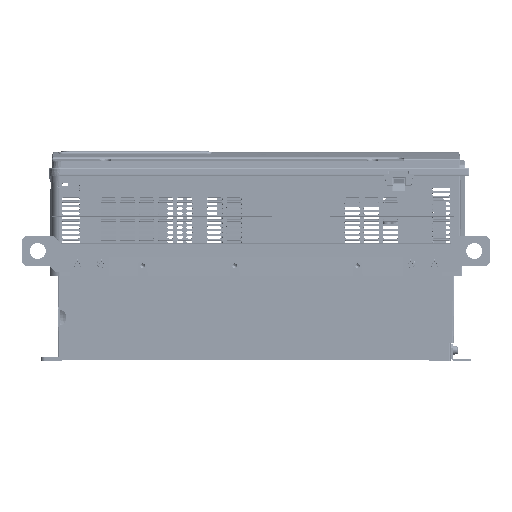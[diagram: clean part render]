
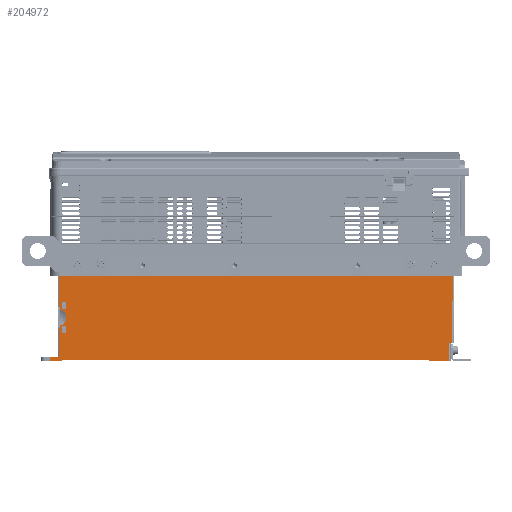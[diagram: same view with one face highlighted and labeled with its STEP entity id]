
A CAD part, left-side view. The second image highlights one B-rep face of the part: STEP entity #204972.
In plain terms, the highlighted planar face has unit normal (-1, 0, 0).
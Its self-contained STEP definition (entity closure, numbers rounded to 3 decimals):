
#67195=DIRECTION('',(0.,1.,-0.017));
#67196=VECTOR('',#67195,0.473);
#67197=CARTESIAN_POINT('',(-4.626,9.764,
0.112));
#67198=LINE('',#67197,#67196);
#67440=DIRECTION('',(0.,1.,0.));
#67441=VECTOR('',#67440,0.63);
#67442=CARTESIAN_POINT('',(-4.626,9.606,
-0.087));
#67443=LINE('',#67442,#67441);
#67488=DIRECTION('',(0.,1.,0.));
#67489=VECTOR('',#67488,18.209);
#67490=CARTESIAN_POINT('',(-4.626,-8.602,
-0.047));
#67491=LINE('',#67490,#67489);
#67492=DIRECTION('',(0.,0.,-1.));
#67493=VECTOR('',#67492,0.039);
#67494=CARTESIAN_POINT('',(-4.626,9.606,
-0.047));
#67495=LINE('',#67494,#67493);
#67496=DIRECTION('',(0.,0.,-1.));
#67497=VECTOR('',#67496,0.191);
#67498=CARTESIAN_POINT('',(-4.626,10.236,
0.104));
#67499=LINE('',#67498,#67497);
#67500=DIRECTION('',(0.,0.,1.));
#67501=VECTOR('',#67500,1.427);
#67502=CARTESIAN_POINT('',(-4.626,9.764,
0.112));
#67503=LINE('',#67502,#67501);
#67504=DIRECTION('',(0.,1.,0.));
#67505=VECTOR('',#67504,0.039);
#67506=CARTESIAN_POINT('',(-4.626,9.724,
1.539));
#67507=LINE('',#67506,#67505);
#67508=DIRECTION('',(0.,0.,-1.));
#67509=VECTOR('',#67508,0.124);
#67510=CARTESIAN_POINT('',(-4.626,9.724,
1.664));
#67511=LINE('',#67510,#67509);
#67512=DIRECTION('',(0.,0.,-1.));
#67513=VECTOR('',#67512,0.124);
#67514=CARTESIAN_POINT('',(-4.626,9.724,
2.579));
#67515=LINE('',#67514,#67513);
#67516=DIRECTION('',(0.,-1.,0.));
#67517=VECTOR('',#67516,0.039);
#67518=CARTESIAN_POINT('',(-4.626,9.764,
2.579));
#67519=LINE('',#67518,#67517);
#67520=DIRECTION('',(0.,0.,1.));
#67521=VECTOR('',#67520,1.528);
#67522=CARTESIAN_POINT('',(-4.626,9.764,
2.579));
#67523=LINE('',#67522,#67521);
#67524=DIRECTION('',(0.,1.,0.));
#67525=VECTOR('',#67524,19.528);
#67526=CARTESIAN_POINT('',(-4.626,-9.764,
4.106));
#67527=LINE('',#67526,#67525);
#67528=DIRECTION('',(0.,-0.009,1.));
#67529=VECTOR('',#67528,3.297);
#67530=CARTESIAN_POINT('',(-4.626,-9.735,
0.809));
#67531=LINE('',#67530,#67529);
#67532=DIRECTION('',(0.,0.,-1.));
#67533=VECTOR('',#67532,0.335);
#67534=CARTESIAN_POINT('',(-4.626,9.449,
2.819));
#67535=LINE('',#67534,#67533);
#67536=DIRECTION('',(0.,-1.,0.));
#67537=VECTOR('',#67536,0.157);
#67538=CARTESIAN_POINT('',(-4.626,9.606,
2.819));
#67539=LINE('',#67538,#67537);
#67540=DIRECTION('',(0.,0.,1.));
#67541=VECTOR('',#67540,0.335);
#67542=CARTESIAN_POINT('',(-4.626,9.606,
2.484));
#67543=LINE('',#67542,#67541);
#67544=DIRECTION('',(0.,1.,0.));
#67545=VECTOR('',#67544,0.157);
#67546=CARTESIAN_POINT('',(-4.626,9.449,
2.484));
#67547=LINE('',#67546,#67545);
#67548=DIRECTION('',(0.,1.,0.));
#67549=VECTOR('',#67548,0.157);
#67550=CARTESIAN_POINT('',(-4.626,9.449,
1.299));
#67551=LINE('',#67550,#67549);
#67552=DIRECTION('',(0.,0.,-1.));
#67553=VECTOR('',#67552,0.335);
#67554=CARTESIAN_POINT('',(-4.626,9.449,
1.634));
#67555=LINE('',#67554,#67553);
#67556=DIRECTION('',(0.,-1.,0.));
#67557=VECTOR('',#67556,0.157);
#67558=CARTESIAN_POINT('',(-4.626,9.606,
1.634));
#67559=LINE('',#67558,#67557);
#67560=DIRECTION('',(0.,0.,1.));
#67561=VECTOR('',#67560,0.335);
#67562=CARTESIAN_POINT('',(-4.626,9.606,
1.299));
#67563=LINE('',#67562,#67561);
#67564=DIRECTION('',(0.,-0.009,1.));
#67565=VECTOR('',#67564,0.896);
#67566=CARTESIAN_POINT('',(-4.626,-9.579,
-0.087));
#67567=LINE('',#67566,#67565);
#67568=CARTESIAN_POINT('',(-4.626,-9.587,
0.809));
#68188=DIRECTION('',(0.,0.,-1.));
#68189=VECTOR('',#68188,0.039);
#68190=CARTESIAN_POINT('',(-4.626,-8.602,
-0.047));
#68191=LINE('',#68190,#68189);
#68204=DIRECTION('',(0.,1.,0.));
#68205=VECTOR('',#68204,0.976);
#68206=CARTESIAN_POINT('',(-4.626,-9.579,
-0.087));
#68207=LINE('',#68206,#68205);
#68216=CARTESIAN_POINT('',(-4.626,-9.579,
-0.087));
#68304=DIRECTION('',(0.,-1.,0.));
#68305=VECTOR('',#68304,0.148);
#68306=CARTESIAN_POINT('',(-4.626,-9.587,
0.809));
#68307=LINE('',#68306,#68305);
#68316=CARTESIAN_POINT('',(-4.626,-9.735,
0.809));
#68584=CARTESIAN_POINT('',(-4.626,9.764,
0.112));
#68692=CARTESIAN_POINT('',(-4.626,9.815,
2.059));
#68693=DIRECTION('',(1.,0.,0.));
#68694=DIRECTION('',(0.,-0.223,0.975));
#68695=AXIS2_PLACEMENT_3D('',#68692,#68693,#68694);
#112802=CARTESIAN_POINT('',(-4.626,9.606,
-0.087));
#112803=VERTEX_POINT('',#112802);
#112814=CARTESIAN_POINT('',(-4.626,9.606,
-0.047));
#112815=VERTEX_POINT('',#112814);
#112944=CARTESIAN_POINT('',(-4.626,9.764,
2.579));
#112945=CARTESIAN_POINT('',(-4.626,9.764,
4.106));
#112946=VERTEX_POINT('',#112944);
#112947=VERTEX_POINT('',#112945);
#113008=CARTESIAN_POINT('',(-4.626,9.449,
2.819));
#113009=CARTESIAN_POINT('',(-4.626,9.449,
2.484));
#113010=VERTEX_POINT('',#113008);
#113011=VERTEX_POINT('',#113009);
#113012=CARTESIAN_POINT('',(-4.626,9.606,
2.484));
#113013=VERTEX_POINT('',#113012);
#113014=CARTESIAN_POINT('',(-4.626,9.606,
2.819));
#113015=VERTEX_POINT('',#113014);
#113016=CARTESIAN_POINT('',(-4.626,9.449,
1.299));
#113017=CARTESIAN_POINT('',(-4.626,9.606,
1.299));
#113018=VERTEX_POINT('',#113016);
#113019=VERTEX_POINT('',#113017);
#113020=CARTESIAN_POINT('',(-4.626,9.606,
1.634));
#113021=VERTEX_POINT('',#113020);
#113022=CARTESIAN_POINT('',(-4.626,9.449,
1.634));
#113023=VERTEX_POINT('',#113022);
#113044=CARTESIAN_POINT('',(-4.626,9.724,
2.579));
#113045=VERTEX_POINT('',#113044);
#113046=CARTESIAN_POINT('',(-4.626,9.724,
1.539));
#113047=VERTEX_POINT('',#113046);
#113048=CARTESIAN_POINT('',(-4.626,9.724,
2.454));
#113049=VERTEX_POINT('',#113048);
#113050=CARTESIAN_POINT('',(-4.626,9.724,
1.664));
#113051=VERTEX_POINT('',#113050);
#113056=CARTESIAN_POINT('',(-4.626,9.764,
1.539));
#113057=VERTEX_POINT('',#113056);
#114153=CARTESIAN_POINT('',(-4.626,-8.602,
-0.047));
#114154=CARTESIAN_POINT('',(-4.626,-8.602,
-0.087));
#114155=VERTEX_POINT('',#114153);
#114156=VERTEX_POINT('',#114154);
#114178=VERTEX_POINT('',#68584);
#114616=VERTEX_POINT('',#68316);
#114617=CARTESIAN_POINT('',(-4.626,-9.764,
4.106));
#114618=VERTEX_POINT('',#114617);
#114626=VERTEX_POINT('',#67568);
#114631=VERTEX_POINT('',#68216);
#114802=CARTESIAN_POINT('',(-4.626,10.236,
-0.087));
#114803=VERTEX_POINT('',#114802);
#114820=CARTESIAN_POINT('',(-4.626,10.236,
0.104));
#114821=VERTEX_POINT('',#114820);
#204914=CARTESIAN_POINT('',(-4.626,-9.843,
4.343));
#204915=DIRECTION('',(-1.,0.,0.));
#204916=DIRECTION('',(0.,1.,0.));
#204917=AXIS2_PLACEMENT_3D('',#204914,#204915,#204916);
#204918=PLANE('',#204917);
#204920=ORIENTED_EDGE('',*,*,#204919,.F.);
#204922=ORIENTED_EDGE('',*,*,#204921,.T.);
#204924=ORIENTED_EDGE('',*,*,#204923,.F.);
#204925=ORIENTED_EDGE('',*,*,#204521,.T.);
#204927=ORIENTED_EDGE('',*,*,#204926,.T.);
#204928=ORIENTED_EDGE('',*,*,#204874,.T.);
#204929=ORIENTED_EDGE('',*,*,#204908,.F.);
#204930=ORIENTED_EDGE('',*,*,#204812,.F.);
#204932=ORIENTED_EDGE('',*,*,#204931,.T.);
#204934=ORIENTED_EDGE('',*,*,#204933,.F.);
#204936=ORIENTED_EDGE('',*,*,#204935,.F.);
#204938=ORIENTED_EDGE('',*,*,#204937,.F.);
#204940=ORIENTED_EDGE('',*,*,#204939,.F.);
#204942=ORIENTED_EDGE('',*,*,#204941,.F.);
#204944=ORIENTED_EDGE('',*,*,#204943,.T.);
#204945=ORIENTED_EDGE('',*,*,#158115,.F.);
#204947=ORIENTED_EDGE('',*,*,#204946,.F.);
#204949=ORIENTED_EDGE('',*,*,#204948,.F.);
#204950=EDGE_LOOP('',(#204920,#204922,#204924,#204925,#204927,#204928,#204929,
#204930,#204932,#204934,#204936,#204938,#204940,#204942,#204944,#204945,#204947,
#204949));
#204951=FACE_OUTER_BOUND('',#204950,.F.);
#204953=ORIENTED_EDGE('',*,*,#204952,.F.);
#204955=ORIENTED_EDGE('',*,*,#204954,.F.);
#204957=ORIENTED_EDGE('',*,*,#204956,.F.);
#204959=ORIENTED_EDGE('',*,*,#204958,.F.);
#204960=EDGE_LOOP('',(#204953,#204955,#204957,#204959));
#204961=FACE_BOUND('',#204960,.F.);
#204963=ORIENTED_EDGE('',*,*,#204962,.F.);
#204965=ORIENTED_EDGE('',*,*,#204964,.F.);
#204967=ORIENTED_EDGE('',*,*,#204966,.F.);
#204969=ORIENTED_EDGE('',*,*,#204968,.F.);
#204970=EDGE_LOOP('',(#204963,#204965,#204967,#204969));
#204971=FACE_BOUND('',#204970,.F.);
#204972=ADVANCED_FACE('',(#204951,#204961,#204971),#204918,.T.);
#68696=CIRCLE('',#68695,0.406);
#158115=EDGE_CURVE('',#114618,#112947,#67527,.T.);
#204521=EDGE_CURVE('',#114155,#112815,#67491,.T.);
#204812=EDGE_CURVE('',#114178,#114821,#67198,.T.);
#204874=EDGE_CURVE('',#112803,#114803,#67443,.T.);
#204908=EDGE_CURVE('',#114821,#114803,#67499,.T.);
#204919=EDGE_CURVE('',#114631,#114626,#67567,.T.);
#204921=EDGE_CURVE('',#114631,#114156,#68207,.T.);
#204923=EDGE_CURVE('',#114155,#114156,#68191,.T.);
#204926=EDGE_CURVE('',#112815,#112803,#67495,.T.);
#204931=EDGE_CURVE('',#114178,#113057,#67503,.T.);
#204933=EDGE_CURVE('',#113047,#113057,#67507,.T.);
#204935=EDGE_CURVE('',#113051,#113047,#67511,.T.);
#204937=EDGE_CURVE('',#113049,#113051,#68696,.T.);
#204939=EDGE_CURVE('',#113045,#113049,#67515,.T.);
#204941=EDGE_CURVE('',#112946,#113045,#67519,.T.);
#204943=EDGE_CURVE('',#112946,#112947,#67523,.T.);
#204946=EDGE_CURVE('',#114616,#114618,#67531,.T.);
#204948=EDGE_CURVE('',#114626,#114616,#68307,.T.);
#204952=EDGE_CURVE('',#113010,#113011,#67535,.T.);
#204954=EDGE_CURVE('',#113015,#113010,#67539,.T.);
#204956=EDGE_CURVE('',#113013,#113015,#67543,.T.);
#204958=EDGE_CURVE('',#113011,#113013,#67547,.T.);
#204962=EDGE_CURVE('',#113018,#113019,#67551,.T.);
#204964=EDGE_CURVE('',#113023,#113018,#67555,.T.);
#204966=EDGE_CURVE('',#113021,#113023,#67559,.T.);
#204968=EDGE_CURVE('',#113019,#113021,#67563,.T.);
